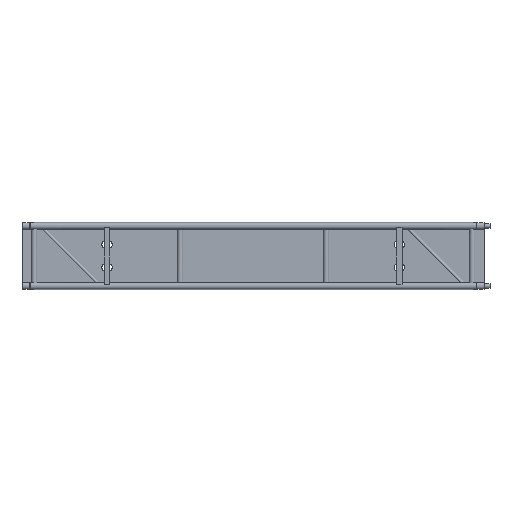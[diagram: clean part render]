
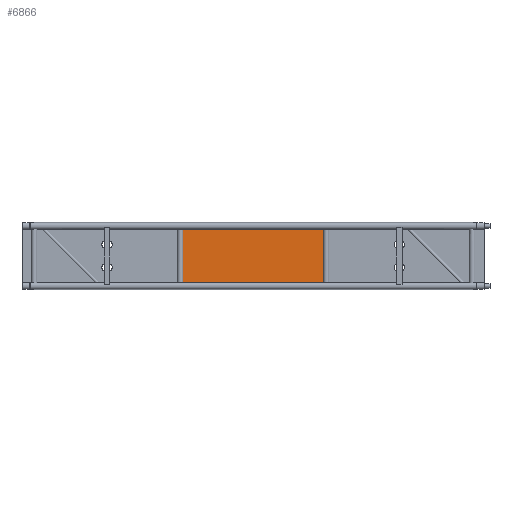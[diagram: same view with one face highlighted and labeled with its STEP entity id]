
A CAD part, front view. The second image highlights one B-rep face of the part: STEP entity #6866.
In plain terms, the highlighted planar face has unit normal (0, -1, 0).
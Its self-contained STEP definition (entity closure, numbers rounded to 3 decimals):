
#831=FACE_OUTER_BOUND('',#1218,.T.);
#1218=EDGE_LOOP('',(#4618,#4619,#4620,#4621));
#1980=LINE('',#10152,#2422);
#1981=LINE('',#10154,#2423);
#1982=LINE('',#10156,#2424);
#1983=LINE('',#10157,#2425);
#2422=VECTOR('',#8245,10.);
#2423=VECTOR('',#8246,10.);
#2424=VECTOR('',#8247,10.);
#2425=VECTOR('',#8248,10.);
#2852=VERTEX_POINT('',#10150);
#2853=VERTEX_POINT('',#10151);
#2854=VERTEX_POINT('',#10153);
#2855=VERTEX_POINT('',#10155);
#3560=EDGE_CURVE('',#2852,#2853,#1980,.T.);
#3561=EDGE_CURVE('',#2854,#2852,#1981,.T.);
#3562=EDGE_CURVE('',#2855,#2854,#1982,.T.);
#3563=EDGE_CURVE('',#2855,#2853,#1983,.T.);
#4618=ORIENTED_EDGE('',*,*,#3560,.F.);
#4619=ORIENTED_EDGE('',*,*,#3561,.F.);
#4620=ORIENTED_EDGE('',*,*,#3562,.F.);
#4621=ORIENTED_EDGE('',*,*,#3563,.T.);
#6238=PLANE('',#7302);
#6866=ADVANCED_FACE('',(#831),#6238,.T.);
#7302=AXIS2_PLACEMENT_3D('',#10149,#8243,#8244);
#8243=DIRECTION('center_axis',(0.,-1.,0.));
#8244=DIRECTION('ref_axis',(0.,0.,
1.));
#8245=DIRECTION('',(0.,0.,1.));
#8246=DIRECTION('',(-1.,0.,0.));
#8247=DIRECTION('',(0.,0.,-1.));
#8248=DIRECTION('',(-1.,0.,0.));
#10149=CARTESIAN_POINT('Origin',(3263.,74.,-30.));
#10150=CARTESIAN_POINT('',(1370.737,74.,-490.));
#10151=CARTESIAN_POINT('',(1370.737,74.,-30.));
#10152=CARTESIAN_POINT('',(1370.737,74.,-260.));
#10153=CARTESIAN_POINT('',(2629.263,74.,-490.));
#10154=CARTESIAN_POINT('',(3263.,74.,-490.));
#10155=CARTESIAN_POINT('',(2629.263,74.,-30.));
#10156=CARTESIAN_POINT('',(2629.263,74.,-260.));
#10157=CARTESIAN_POINT('',(3263.,74.,-30.));
